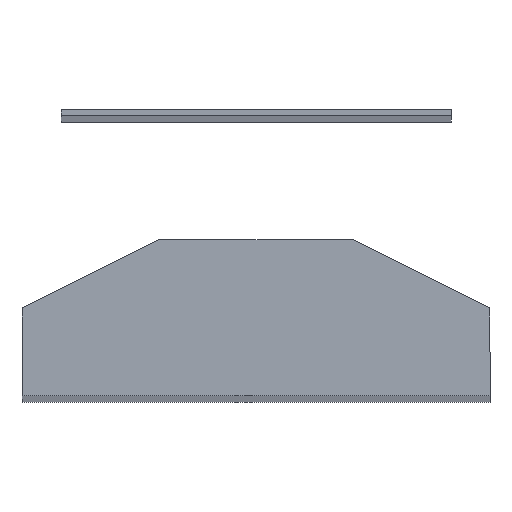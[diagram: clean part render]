
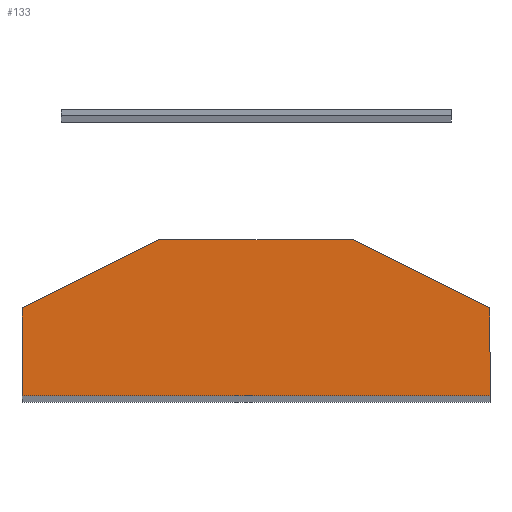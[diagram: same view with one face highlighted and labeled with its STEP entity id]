
A CAD part, top view. The second image highlights one B-rep face of the part: STEP entity #133.
In plain terms, the highlighted planar face has unit normal (0, 0, 1).
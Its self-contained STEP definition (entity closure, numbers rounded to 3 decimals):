
#4 = PLANE ( 'NONE',  #378 ) ;
#5 = CARTESIAN_POINT ( 'NONE',  ( 0., 0., 2000. ) ) ;
#10 = DIRECTION ( 'NONE',  ( -0.894, -0.447, 0. ) ) ;
#55 = CARTESIAN_POINT ( 'NONE',  ( 100., 160., 2000. ) ) ;
#62 = DIRECTION ( 'NONE',  ( -0.894, 0.447, 0. ) ) ;
#63 = CARTESIAN_POINT ( 'NONE',  ( 240., 0., 2000. ) ) ;
#65 = CARTESIAN_POINT ( 'NONE',  ( -240., 90., 2000. ) ) ;
#73 = DIRECTION ( 'NONE',  ( 0., 1., 0. ) ) ;
#76 = CARTESIAN_POINT ( 'NONE',  ( 240., 90., 2000. ) ) ;
#78 = DIRECTION ( 'NONE',  ( 1., 0., 0. ) ) ;
#82 = CARTESIAN_POINT ( 'NONE',  ( -240., 0., 2000. ) ) ;
#86 = CARTESIAN_POINT ( 'NONE',  ( 240., 90., 2000. ) ) ;
#99 = DIRECTION ( 'NONE',  ( -1., 0., 0. ) ) ;
#105 = CARTESIAN_POINT ( 'NONE',  ( 100., 160., 2000. ) ) ;
#110 = CARTESIAN_POINT ( 'NONE',  ( -240., 90., 2000. ) ) ;
#118 = CARTESIAN_POINT ( 'NONE',  ( -240., 0., 2000. ) ) ;
#130 = CARTESIAN_POINT ( 'NONE',  ( -100., 160., 2000. ) ) ;
#133 = ADVANCED_FACE ( 'NONE', ( #386 ), #4, .F. ) ;
#151 = VERTEX_POINT ( 'NONE', #105 ) ;
#162 = EDGE_LOOP ( 'NONE', ( #284, #296, #289, #292, #288, #342 ) ) ;
#180 = DIRECTION ( 'NONE',  ( -1., 0., 0. ) ) ;
#182 = DIRECTION ( 'NONE',  ( 0., 0., -1. ) ) ;
#228 = VECTOR ( 'NONE', #62, 1000. ) ;
#231 = LINE ( 'NONE', #55, #228 ) ;
#246 = VECTOR ( 'NONE', #10, 1000. ) ;
#252 = LINE ( 'NONE', #65, #246 ) ;
#258 = VECTOR ( 'NONE', #73, 1000. ) ;
#263 = VECTOR ( 'NONE', #78, 1000. ) ;
#265 = LINE ( 'NONE', #86, #258 ) ;
#284 = ORIENTED_EDGE ( 'NONE', *, *, #357, .T. ) ;
#286 = LINE ( 'NONE', #82, #263 ) ;
#288 = ORIENTED_EDGE ( 'NONE', *, *, #295, .T. ) ;
#289 = ORIENTED_EDGE ( 'NONE', *, *, #412, .T. ) ;
#292 = ORIENTED_EDGE ( 'NONE', *, *, #436, .T. ) ;
#293 = VERTEX_POINT ( 'NONE', #317 ) ;
#295 = EDGE_CURVE ( 'NONE', #151, #293, #314, .T. ) ;
#296 = ORIENTED_EDGE ( 'NONE', *, *, #410, .T. ) ;
#304 = VECTOR ( 'NONE', #447, 1000. ) ;
#305 = LINE ( 'NONE', #118, #304 ) ;
#311 = VECTOR ( 'NONE', #99, 1000. ) ;
#314 = LINE ( 'NONE', #130, #311 ) ;
#317 = CARTESIAN_POINT ( 'NONE',  ( -100., 160., 2000. ) ) ;
#342 = ORIENTED_EDGE ( 'NONE', *, *, #422, .T. ) ;
#355 = VERTEX_POINT ( 'NONE', #443 ) ;
#357 = EDGE_CURVE ( 'NONE', #368, #355, #305, .T. ) ;
#365 = VERTEX_POINT ( 'NONE', #76 ) ;
#368 = VERTEX_POINT ( 'NONE', #110 ) ;
#378 = AXIS2_PLACEMENT_3D ( 'NONE', #5, #182, #180 ) ;
#386 = FACE_OUTER_BOUND ( 'NONE', #162, .T. ) ;
#410 = EDGE_CURVE ( 'NONE', #355, #444, #286, .T. ) ;
#412 = EDGE_CURVE ( 'NONE', #444, #365, #265, .T. ) ;
#422 = EDGE_CURVE ( 'NONE', #293, #368, #252, .T. ) ;
#436 = EDGE_CURVE ( 'NONE', #365, #151, #231, .T. ) ;
#443 = CARTESIAN_POINT ( 'NONE',  ( -240., 0., 2000. ) ) ;
#444 = VERTEX_POINT ( 'NONE', #63 ) ;
#447 = DIRECTION ( 'NONE',  ( 0., -1., 0. ) ) ;
